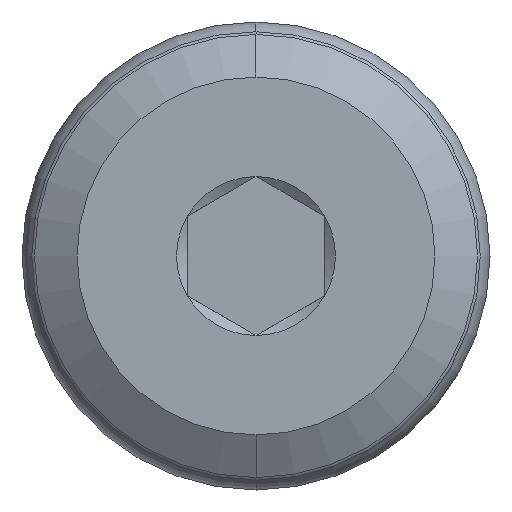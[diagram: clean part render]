
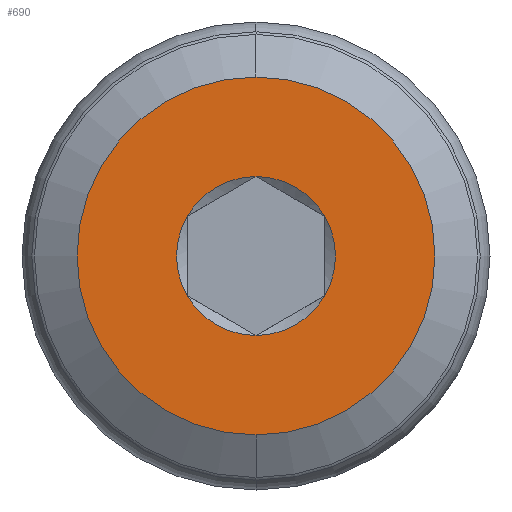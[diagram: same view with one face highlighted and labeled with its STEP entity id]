
A CAD part, left-side view. The second image highlights one B-rep face of the part: STEP entity #690.
In plain terms, the highlighted planar face has unit normal (-1, 0, 0).
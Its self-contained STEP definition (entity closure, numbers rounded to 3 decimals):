
#4 = DIRECTION ( 'NONE',  ( 1., 0., 0. ) ) ;
#10 = CARTESIAN_POINT ( 'NONE',  ( 0., 0., 3.25 ) ) ;
#15 = DIRECTION ( 'NONE',  ( 0., 0., -1. ) ) ;
#26 = CIRCLE ( 'NONE', #534, 1.443 ) ;
#27 = CIRCLE ( 'NONE', #627, 1.443 ) ;
#40 = AXIS2_PLACEMENT_3D ( 'NONE', #259, #622, #143 ) ;
#60 = DIRECTION ( 'NONE',  ( 0., 0., -1. ) ) ;
#71 = DIRECTION ( 'NONE',  ( 1., 0., 0. ) ) ;
#104 = CIRCLE ( 'NONE', #548, 1.443 ) ;
#105 = VERTEX_POINT ( 'NONE', #723 ) ;
#114 = EDGE_CURVE ( 'NONE', #604, #754, #26, .T. ) ;
#127 = DIRECTION ( 'NONE',  ( 1., 0., 0. ) ) ;
#135 = CARTESIAN_POINT ( 'NONE',  ( 0., 0., 0. ) ) ;
#142 = EDGE_CURVE ( 'NONE', #754, #161, #296, .T. ) ;
#143 = DIRECTION ( 'NONE',  ( 0., 0., 1. ) ) ;
#152 = VERTEX_POINT ( 'NONE', #359 ) ;
#161 = VERTEX_POINT ( 'NONE', #547 ) ;
#181 = AXIS2_PLACEMENT_3D ( 'NONE', #499, #443, #749 ) ;
#182 = AXIS2_PLACEMENT_3D ( 'NONE', #341, #214, #513 ) ;
#189 = DIRECTION ( 'NONE',  ( 0., 0., -1. ) ) ;
#199 = DIRECTION ( 'NONE',  ( 0., 0., -1. ) ) ;
#206 = AXIS2_PLACEMENT_3D ( 'NONE', #416, #597, #189 ) ;
#213 = ORIENTED_EDGE ( 'NONE', *, *, #114, .T. ) ;
#214 = DIRECTION ( 'NONE',  ( 1., 0., 0. ) ) ;
#230 = EDGE_CURVE ( 'NONE', #695, #105, #495, .T. ) ;
#233 = CIRCLE ( 'NONE', #182, 3.25 ) ;
#236 = CARTESIAN_POINT ( 'NONE',  ( 0., -1.25, 0.722 ) ) ;
#259 = CARTESIAN_POINT ( 'NONE',  ( 0., 3.25, 0. ) ) ;
#264 = EDGE_CURVE ( 'NONE', #152, #695, #693, .T. ) ;
#280 = CIRCLE ( 'NONE', #369, 3.25 ) ;
#296 = CIRCLE ( 'NONE', #206, 1.443 ) ;
#313 = EDGE_CURVE ( 'NONE', #663, #350, #280, .T. ) ;
#314 = CARTESIAN_POINT ( 'NONE',  ( 0., -1.25, -0.722 ) ) ;
#325 = CARTESIAN_POINT ( 'NONE',  ( 0., 0., 0. ) ) ;
#341 = CARTESIAN_POINT ( 'NONE',  ( 0., 0., 0. ) ) ;
#343 = ORIENTED_EDGE ( 'NONE', *, *, #368, .F. ) ;
#350 = VERTEX_POINT ( 'NONE', #10 ) ;
#353 = ORIENTED_EDGE ( 'NONE', *, *, #313, .F. ) ;
#359 = CARTESIAN_POINT ( 'NONE',  ( 0., 1.25, -0.722 ) ) ;
#366 = DIRECTION ( 'NONE',  ( 1., 0., 0. ) ) ;
#368 = EDGE_CURVE ( 'NONE', #350, #663, #233, .T. ) ;
#369 = AXIS2_PLACEMENT_3D ( 'NONE', #135, #71, #550 ) ;
#372 = CARTESIAN_POINT ( 'NONE',  ( 0., 0., 0. ) ) ;
#374 = ORIENTED_EDGE ( 'NONE', *, *, #142, .T. ) ;
#377 = ORIENTED_EDGE ( 'NONE', *, *, #775, .T. ) ;
#385 = PLANE ( 'NONE',  #40 ) ;
#403 = ORIENTED_EDGE ( 'NONE', *, *, #230, .T. ) ;
#415 = CARTESIAN_POINT ( 'NONE',  ( 0., 0., -3.25 ) ) ;
#416 = CARTESIAN_POINT ( 'NONE',  ( 0., 0., 0. ) ) ;
#431 = FACE_OUTER_BOUND ( 'NONE', #747, .T. ) ;
#437 = FACE_BOUND ( 'NONE', #464, .T. ) ;
#441 = DIRECTION ( 'NONE',  ( 1., 0., 0. ) ) ;
#443 = DIRECTION ( 'NONE',  ( 1., 0., 0. ) ) ;
#464 = EDGE_LOOP ( 'NONE', ( #403, #785, #213, #374, #377, #559 ) ) ;
#484 = AXIS2_PLACEMENT_3D ( 'NONE', #490, #127, #15 ) ;
#490 = CARTESIAN_POINT ( 'NONE',  ( 0., 0., 0. ) ) ;
#495 = CIRCLE ( 'NONE', #484, 1.443 ) ;
#499 = CARTESIAN_POINT ( 'NONE',  ( 0., 0., 0. ) ) ;
#513 = DIRECTION ( 'NONE',  ( 0., 0., -1. ) ) ;
#534 = AXIS2_PLACEMENT_3D ( 'NONE', #672, #4, #60 ) ;
#547 = CARTESIAN_POINT ( 'NONE',  ( 0., 0., -1.443 ) ) ;
#548 = AXIS2_PLACEMENT_3D ( 'NONE', #325, #366, #615 ) ;
#550 = DIRECTION ( 'NONE',  ( 0., 0., -1. ) ) ;
#559 = ORIENTED_EDGE ( 'NONE', *, *, #264, .T. ) ;
#597 = DIRECTION ( 'NONE',  ( 1., 0., 0. ) ) ;
#604 = VERTEX_POINT ( 'NONE', #236 ) ;
#615 = DIRECTION ( 'NONE',  ( 0., 0., -1. ) ) ;
#622 = DIRECTION ( 'NONE',  ( -1., 0., 0. ) ) ;
#627 = AXIS2_PLACEMENT_3D ( 'NONE', #372, #441, #199 ) ;
#663 = VERTEX_POINT ( 'NONE', #415 ) ;
#672 = CARTESIAN_POINT ( 'NONE',  ( 0., 0., 0. ) ) ;
#690 = ADVANCED_FACE ( 'NONE', ( #437, #431 ), #385, .T. ) ;
#693 = CIRCLE ( 'NONE', #181, 1.443 ) ;
#695 = VERTEX_POINT ( 'NONE', #748 ) ;
#723 = CARTESIAN_POINT ( 'NONE',  ( 0., 0., 1.443 ) ) ;
#735 = EDGE_CURVE ( 'NONE', #105, #604, #104, .T. ) ;
#747 = EDGE_LOOP ( 'NONE', ( #353, #343 ) ) ;
#748 = CARTESIAN_POINT ( 'NONE',  ( 0., 1.25, 0.722 ) ) ;
#749 = DIRECTION ( 'NONE',  ( 0., 0., -1. ) ) ;
#754 = VERTEX_POINT ( 'NONE', #314 ) ;
#775 = EDGE_CURVE ( 'NONE', #161, #152, #27, .T. ) ;
#785 = ORIENTED_EDGE ( 'NONE', *, *, #735, .T. ) ;
